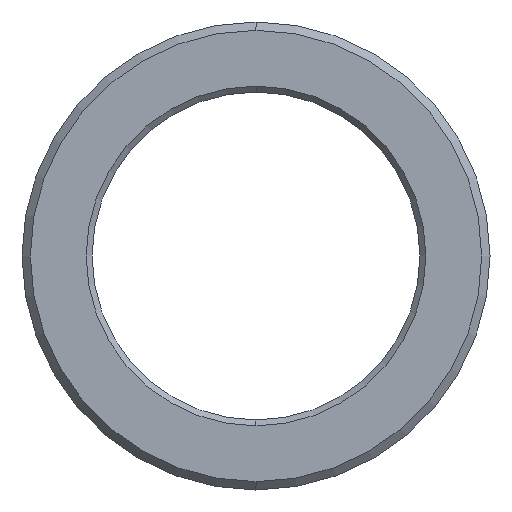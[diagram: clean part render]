
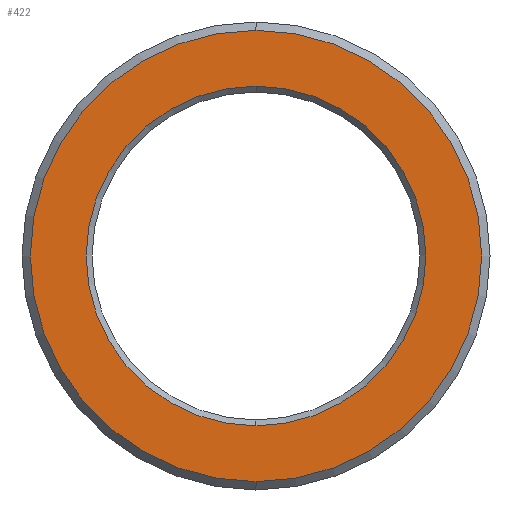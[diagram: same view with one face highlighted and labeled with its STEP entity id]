
A CAD part, left-side view. The second image highlights one B-rep face of the part: STEP entity #422.
In plain terms, the highlighted planar face has unit normal (-1, 0, 0).
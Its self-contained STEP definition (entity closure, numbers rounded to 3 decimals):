
#8 = FACE_OUTER_BOUND ( 'NONE', #363, .T. ) ;
#48 = AXIS2_PLACEMENT_3D ( 'NONE', #618, #517, #306 ) ;
#71 = DIRECTION ( 'NONE',  ( -1., 0., 0. ) ) ;
#122 = ORIENTED_EDGE ( 'NONE', *, *, #386, .T. ) ;
#138 = CARTESIAN_POINT ( 'NONE',  ( 0., 0., 0. ) ) ;
#147 = DIRECTION ( 'NONE',  ( 0., 0., -1. ) ) ;
#156 = AXIS2_PLACEMENT_3D ( 'NONE', #534, #586, #273 ) ;
#188 = CARTESIAN_POINT ( 'NONE',  ( 0., 0., 0. ) ) ;
#204 = ORIENTED_EDGE ( 'NONE', *, *, #671, .F. ) ;
#272 = VERTEX_POINT ( 'NONE', #314 ) ;
#273 = DIRECTION ( 'NONE',  ( 0., 0., -1. ) ) ;
#274 = CIRCLE ( 'NONE', #156, 13.5 ) ;
#276 = CARTESIAN_POINT ( 'NONE',  ( 0., 0., 10.16 ) ) ;
#278 = ORIENTED_EDGE ( 'NONE', *, *, #635, .F. ) ;
#279 = CARTESIAN_POINT ( 'NONE',  ( 0., 0., 13.5 ) ) ;
#298 = DIRECTION ( 'NONE',  ( -1., 0., 0. ) ) ;
#300 = CARTESIAN_POINT ( 'NONE',  ( 0., 0., -10.16 ) ) ;
#306 = DIRECTION ( 'NONE',  ( 0., 0., -1. ) ) ;
#311 = EDGE_CURVE ( 'NONE', #379, #272, #274, .T. ) ;
#314 = CARTESIAN_POINT ( 'NONE',  ( 0., 0., -13.5 ) ) ;
#340 = CIRCLE ( 'NONE', #48, 13.5 ) ;
#363 = EDGE_LOOP ( 'NONE', ( #122, #388 ) ) ;
#377 = VERTEX_POINT ( 'NONE', #276 ) ;
#379 = VERTEX_POINT ( 'NONE', #279 ) ;
#386 = EDGE_CURVE ( 'NONE', #272, #379, #340, .T. ) ;
#388 = ORIENTED_EDGE ( 'NONE', *, *, #311, .T. ) ;
#397 = AXIS2_PLACEMENT_3D ( 'NONE', #672, #569, #147 ) ;
#415 = FACE_BOUND ( 'NONE', #610, .T. ) ;
#422 = ADVANCED_FACE ( 'NONE', ( #8, #415 ), #458, .F. ) ;
#424 = CIRCLE ( 'NONE', #506, 10.16 ) ;
#435 = AXIS2_PLACEMENT_3D ( 'NONE', #188, #71, #611 ) ;
#458 = PLANE ( 'NONE',  #397 ) ;
#506 = AXIS2_PLACEMENT_3D ( 'NONE', #138, #298, #508 ) ;
#508 = DIRECTION ( 'NONE',  ( 0., 0., 1. ) ) ;
#517 = DIRECTION ( 'NONE',  ( -1., 0., 0. ) ) ;
#534 = CARTESIAN_POINT ( 'NONE',  ( 0., 0., 0. ) ) ;
#569 = DIRECTION ( 'NONE',  ( 1., 0., 0. ) ) ;
#586 = DIRECTION ( 'NONE',  ( -1., 0., 0. ) ) ;
#607 = CIRCLE ( 'NONE', #435, 10.16 ) ;
#610 = EDGE_LOOP ( 'NONE', ( #278, #204 ) ) ;
#611 = DIRECTION ( 'NONE',  ( 0., 0., 1. ) ) ;
#618 = CARTESIAN_POINT ( 'NONE',  ( 0., 0., 0. ) ) ;
#635 = EDGE_CURVE ( 'NONE', #377, #668, #607, .T. ) ;
#668 = VERTEX_POINT ( 'NONE', #300 ) ;
#671 = EDGE_CURVE ( 'NONE', #668, #377, #424, .T. ) ;
#672 = CARTESIAN_POINT ( 'NONE',  ( 0., 10.16, 0. ) ) ;
